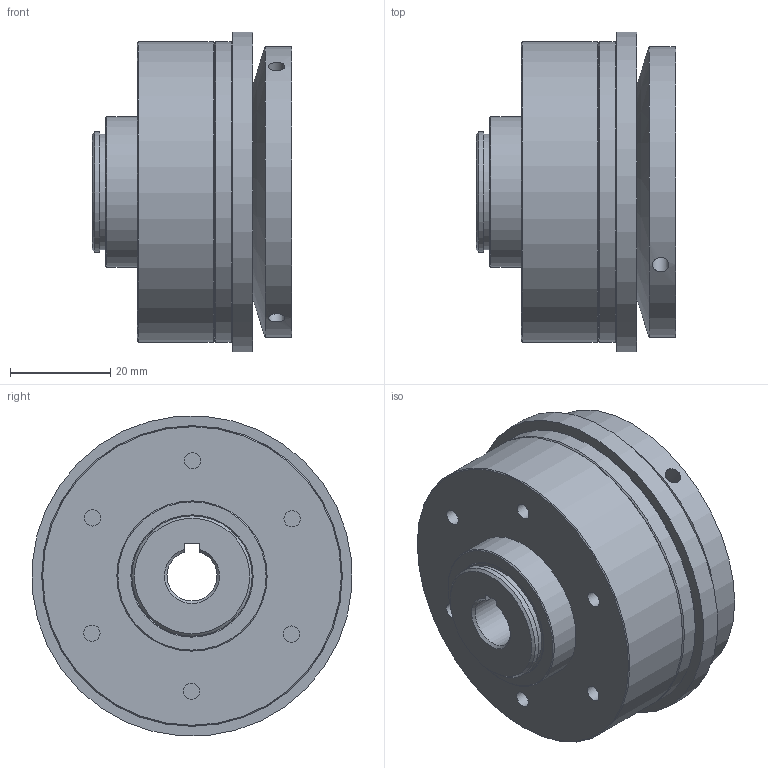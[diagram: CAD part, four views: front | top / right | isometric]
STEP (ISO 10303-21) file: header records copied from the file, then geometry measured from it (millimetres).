
FILE_DESCRIPTION( ( 'Unknown' ), '1' );
FILE_NAME( 'C:/Users/TWalzel/Documents/CAD-Daten/KBK-CP/30/KBK CP-30.stp', 'Unknown', ( 'Unknown' ), ( 'Unknown' ), 'PSStep 16.0.42', 'Unknown', ' ' );
FILE_SCHEMA( ( 'AUTOMOTIVE_DESIGN { 1 0 10303 214 1 1 1 1 }' ) );
Length unit declared in the file: millimetre
Products named in the file (7): Stellring 30; Druckring 30; Assem1; Flansch-Gleitlager CK-30; Grundkörper CP-30_1
Assembly tree (6 placements, depth 3):
  Assem1
    Flansch-Gleitlager CK-30
    Grundkörper CP-30_1
    Stellring 30
      Stellring 30
    Druckring 30
      Druckring 30
Bounding box: 39.8 x 63.81 x 63.81 mm (x, y, z)
Volume: 85153.3 mm3; surface area: 31460.5 mm2
Topology: 4 solids, 4 shells, 68 faces, 133 edges, 82 vertices
Faces by surface type: cylinder 29, plane 25, cone 13, torus 1
Full cylindrical faces by diameter (mm): 3.242 x15, 23 x1, 24 x3, 30 x1, 38 x2, 40 x1, 52 x1, 58 x1, 60 x2, 64 x1
Entity records: 2467 total; most frequent: CARTESIAN_POINT 548, DIRECTION 291, ORIENTED_EDGE 168, AXIS2_PLACEMENT_3D 138, EDGE_LOOP 133, FACE_OUTER_BOUND 97, EDGE_CURVE 84, VERTEX_POINT 75
